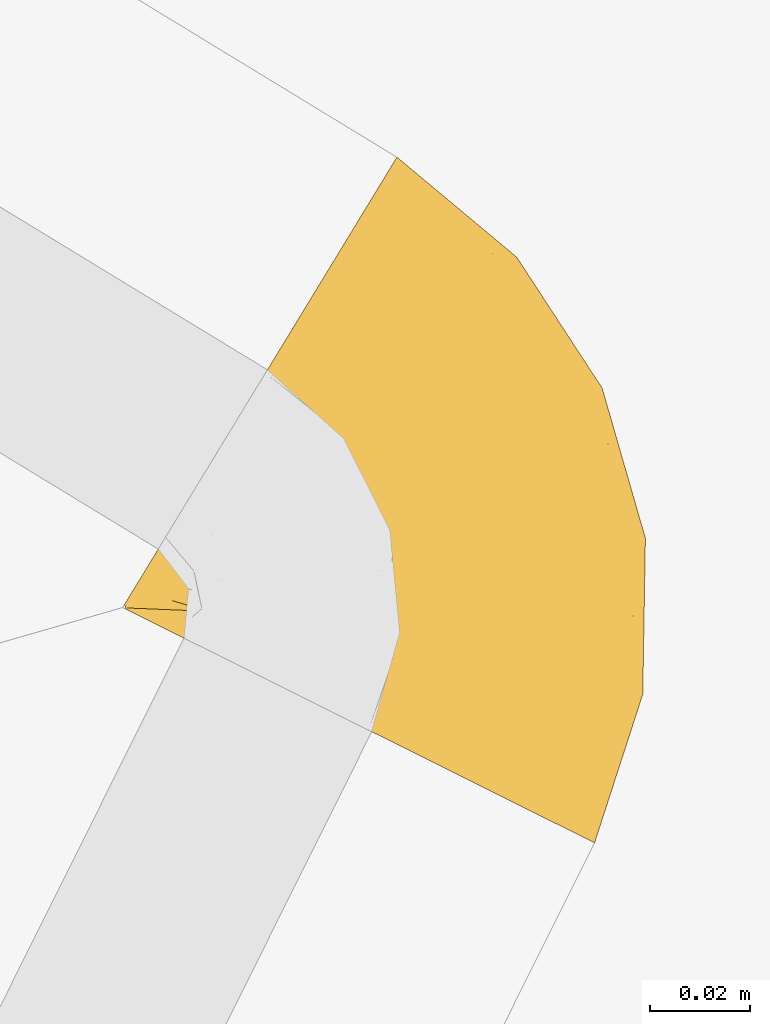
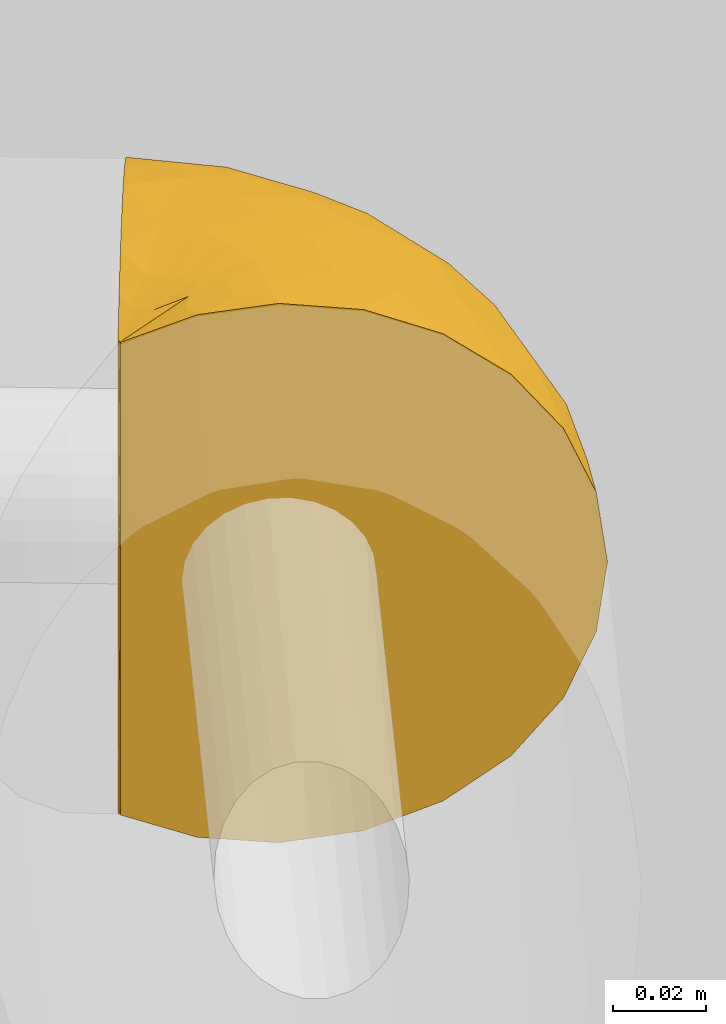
# One storey, part 18 of 47: 1 covering.
"""IFC2X3 building model written with IfcOpenShell, lengths in metres."""

from ifc_helpers import new_model, entity, si_unit, converted_unit, derived_unit, direction, frame, origin, place, context, subcontext, project, spatial, faceted_brep, element, save


model = new_model("IFC2X3")

# Units and contexts
model_context = context("Model", 3, precision=1e-05, world=origin(), true_north=direction((0.894925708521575, 0.446215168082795)))
context_of_model = context(None, 3, precision=1e-05, world=origin(), true_north=direction((0.894925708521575, 0.446215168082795)))
body_context = subcontext(model_context, "Body", "Model", "MODEL_VIEW")
ifc_project = project(units=[si_unit("LENGTHUNIT", "METRE"), si_unit("AREAUNIT", "SQUARE_METRE"), si_unit("VOLUMEUNIT", "CUBIC_METRE"), converted_unit("PLANEANGLEUNIT", "DEGREE", entity("IfcRatioMeasure", 0.0174532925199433), si_unit("PLANEANGLEUNIT", "RADIAN"), dimensions=[0, 0, 0, 0, 0, 0, 0]), si_unit("MASSUNIT", "GRAM", prefix="KILO"), si_unit("TIMEUNIT", "SECOND"), si_unit("FREQUENCYUNIT", "HERTZ"), si_unit("THERMODYNAMICTEMPERATUREUNIT", "DEGREE_CELSIUS"), derived_unit("THERMALTRANSMITTANCEUNIT", [(si_unit("MASSUNIT", "GRAM", prefix="KILO"), 1), (si_unit("THERMODYNAMICTEMPERATUREUNIT", "KELVIN"), -1), (si_unit("TIMEUNIT", "SECOND"), -3)]), derived_unit("VOLUMETRICFLOWRATEUNIT", [(si_unit("LENGTHUNIT", "METRE"), 3), (si_unit("TIMEUNIT", "SECOND"), -1)]), si_unit("ELECTRICCURRENTUNIT", "AMPERE"), si_unit("ELECTRICVOLTAGEUNIT", "VOLT"), si_unit("POWERUNIT", "WATT"), si_unit("FORCEUNIT", "NEWTON", prefix="KILO"), si_unit("ILLUMINANCEUNIT", "LUX"), si_unit("LUMINOUSFLUXUNIT", "LUMEN"), si_unit("LUMINOUSINTENSITYUNIT", "CANDELA"), si_unit("PRESSUREUNIT", "PASCAL")], contexts=[model_context, context_of_model])

# Site, building, storey
site_placement = place(None, frame((218.228324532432, 584.720189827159, 0.0), z_axis=(0.0, 0.0, 1.0), x_axis=(0.446215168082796, 0.894925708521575, 0.0)))
site = spatial("IfcSite", under=ifc_project, at=site_placement, Name="Default", CompositionType="ELEMENT")
building_placement = place(site_placement, origin())
building = spatial("IfcBuilding", under=site, at=building_placement, CompositionType="ELEMENT")
storey_placement = place(building_placement, frame((0.0, 0.0, 4.69)))
storey = spatial("IfcBuildingStorey", under=building, at=storey_placement, Name="1 - Piano Primo", CompositionType="ELEMENT", Elevation=4.69)

# Covering
covering_placement = place(storey_placement, frame((65.8307459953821, -4.22377426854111, 2.88730472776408)))
element("IfcCovering", 1, at=covering_placement, inside=storey, Name="Isolamento tubazione:Default", ObjectType="Isolamento tubazione:Default", PredefinedType="INSULATION", context=body_context, shape_type="Brep", body=[
    faceted_brep([(0.0130403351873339, 0.106551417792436, 0.13985527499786), (0.0245082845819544, 0.105579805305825, 0.142804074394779), (0.0362967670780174, 0.104581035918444, 0.143795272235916), (0.0501222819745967, 0.103409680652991, 0.142428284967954), (0.0634150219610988, 0.102283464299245, 0.138380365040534), (0.0756643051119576, 0.10124565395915, 0.131807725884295), (0.0863996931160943, 0.100336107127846, 0.122963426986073), (0.0952089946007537, 0.0995897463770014, 0.112187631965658), (0.101754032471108, 0.0990352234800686, 0.0998945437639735), (0.105783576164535, 0.0986938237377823, 0.0865565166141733), (0.107142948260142, 0.0985786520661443, 0.0726952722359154), (0.105780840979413, 0.0986940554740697, 0.0588202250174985), (0.101747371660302, 0.0990357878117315, 0.0454798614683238), (0.095198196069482, 0.0995906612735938, 0.033186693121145), (0.086385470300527, 0.10033731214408, 0.0224128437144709), (0.0756481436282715, 0.101247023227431, 0.0135719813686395), (0.063398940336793, 0.102284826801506, 0.00700349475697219), (0.050108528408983, 0.103410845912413, 0.00295951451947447), (0.0362967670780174, 0.104581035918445, 0.00159527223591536), (0.0244917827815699, 0.105581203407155, 0.00258926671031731), (0.0130245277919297, 0.106552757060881, 0.00554078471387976), (0.00221465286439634, 0.107468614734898, 0.0103632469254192), (0.00221465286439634, 0.107468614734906, 0.0138043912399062), (0.00221465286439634, 0.107468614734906, 0.0190639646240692), (0.00221465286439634, 0.107468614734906, 0.0234143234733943), (0.00221465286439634, 0.107468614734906, 0.0277646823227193), (0.00221465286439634, 0.107468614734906, 0.0321150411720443), (0.00221465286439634, 0.107468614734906, 0.0364654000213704), (0.00221465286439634, 0.107468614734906, 0.0408157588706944), (0.00221465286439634, 0.107468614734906, 0.0451661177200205), (0.00221465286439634, 0.107468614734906, 0.0495164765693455), (0.00221465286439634, 0.107468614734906, 0.0538668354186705), (0.00221465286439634, 0.107468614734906, 0.0582171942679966), (0.00221465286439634, 0.107468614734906, 0.0625675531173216), (0.00221465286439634, 0.107468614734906, 0.0669179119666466), (0.00221465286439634, 0.107468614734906, 0.0712682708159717), (0.00221465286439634, 0.107468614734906, 0.0756186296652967), (0.00221465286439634, 0.107468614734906, 0.0799689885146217), (0.00221465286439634, 0.107468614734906, 0.0834101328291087), (0.00221465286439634, 0.107468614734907, 0.0868512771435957), (0.00221465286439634, 0.107468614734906, 0.0902924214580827), (0.00221465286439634, 0.107468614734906, 0.0937335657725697), (0.00221465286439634, 0.107468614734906, 0.0971747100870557), (0.00221465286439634, 0.107468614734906, 0.100615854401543), (0.00221465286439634, 0.107468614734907, 0.10405699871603), (0.00221465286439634, 0.107468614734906, 0.107498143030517), (0.00221465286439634, 0.107468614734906, 0.110939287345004), (0.00221465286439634, 0.107468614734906, 0.114380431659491), (0.00221465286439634, 0.107468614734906, 0.117821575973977), (0.00221465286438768, 0.107468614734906, 0.121262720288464), (0.002214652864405, 0.107468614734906, 0.124703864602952), (0.00221465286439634, 0.107468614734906, 0.128145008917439), (0.00221465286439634, 0.107468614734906, 0.131586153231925), (0.00221465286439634, 0.107468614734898, 0.135027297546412), (0.00159527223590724, 0.072695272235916, 0.00159527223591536), (0.00159527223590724, 0.0542932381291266, 0.00401794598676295), (0.00159527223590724, 0.0371452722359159, 0.0111208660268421), (0.00159527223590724, 0.0224199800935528, 0.0224199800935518), (0.00159527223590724, 0.0111208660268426, 0.0371452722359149), (0.00159527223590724, 0.00401794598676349, 0.0542932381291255), (0.00159527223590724, 0.00159527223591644, 0.0726952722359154), (0.00159527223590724, 0.00401794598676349, 0.0910973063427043), (0.00159527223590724, 0.0111208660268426, 0.108245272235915), (0.00159527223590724, 0.0224199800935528, 0.122970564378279), (0.00159527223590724, 0.0371452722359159, 0.134269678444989), (0.00159527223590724, 0.0542932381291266, 0.141372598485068), (0.00159527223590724, 0.072695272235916, 0.143795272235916), (0.00159527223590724, 0.0903503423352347, 0.141568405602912), (0.00159527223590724, 0.106899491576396, 0.135027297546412), (0.00159527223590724, 0.106899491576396, 0.131586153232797), (0.00159527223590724, 0.106899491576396, 0.1272357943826), (0.00159527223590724, 0.106899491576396, 0.123340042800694), (0.00159527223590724, 0.106899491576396, 0.119444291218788), (0.00159527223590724, 0.106899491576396, 0.115548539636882), (0.00159527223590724, 0.106899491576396, 0.111652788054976), (0.0015952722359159, 0.106899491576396, 0.107757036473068), (0.0015952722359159, 0.106899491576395, 0.103861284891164), (0.00159527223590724, 0.106899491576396, 0.0999655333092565), (0.0015952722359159, 0.106899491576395, 0.0960697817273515), (0.00159527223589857, 0.106899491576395, 0.0921740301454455), (0.00159527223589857, 0.106899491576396, 0.0882782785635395), (0.0015952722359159, 0.106899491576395, 0.0843825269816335), (0.00159527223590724, 0.106899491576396, 0.0804867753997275), (0.00159527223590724, 0.106899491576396, 0.0765910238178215), (0.00159527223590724, 0.106899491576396, 0.0726952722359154), (0.00159527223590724, 0.106899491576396, 0.0683449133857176), (0.0015952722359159, 0.106899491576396, 0.0639945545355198), (0.00159527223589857, 0.106899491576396, 0.059644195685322), (0.00159527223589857, 0.106899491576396, 0.0552938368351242), (0.00159527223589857, 0.106899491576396, 0.0509434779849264), (0.00159527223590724, 0.106899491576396, 0.0465931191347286), (0.00159527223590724, 0.106899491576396, 0.0422427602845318), (0.00159527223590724, 0.106899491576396, 0.0378924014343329), (0.00159527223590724, 0.106899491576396, 0.0344512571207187), (0.00159527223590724, 0.106899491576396, 0.0310101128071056), (0.00159527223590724, 0.106899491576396, 0.0275689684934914), (0.0015952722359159, 0.106899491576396, 0.0241278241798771), (0.00159527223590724, 0.106899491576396, 0.0206866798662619), (0.00159527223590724, 0.106899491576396, 0.0172455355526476), (0.00159527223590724, 0.106899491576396, 0.0138043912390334), (0.00159527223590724, 0.106899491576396, 0.0103632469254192), (0.00159527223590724, 0.0987971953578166, 0.00716078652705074), (0.00159527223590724, 0.0903503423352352, 0.00382213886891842), (0.00202228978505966, 0.107069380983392, 0.109218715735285), (0.00199271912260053, 0.107043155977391, 0.0361718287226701), (0.00199480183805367, 0.107044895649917, 0.0398022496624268), (0.0020259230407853, 0.107072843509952, 0.0593838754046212), (0.00200429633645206, 0.107053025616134, 0.0627726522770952), (0.0020018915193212, 0.107050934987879, 0.0785389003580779), (0.00201584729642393, 0.10706337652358, 0.0155249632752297), (0.00198954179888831, 0.107040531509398, 0.0190510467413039), (0.00201584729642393, 0.10706337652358, 0.129865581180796), (0.00201584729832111, 0.107063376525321, 0.135027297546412), (0.00201584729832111, 0.107063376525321, 0.0103632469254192), (0.00202859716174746, 0.107075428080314, 0.105454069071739), (0.00203584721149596, 0.107082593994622, 0.0255895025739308), (0.00198636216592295, 0.107037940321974, 0.0941219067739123), (0.00204031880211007, 0.107087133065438, 0.0886828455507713), (0.00205313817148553, 0.10710068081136, 0.0818180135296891), (0.00198195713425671, 0.107034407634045, 0.0661697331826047), (0.00199297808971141, 0.107043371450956, 0.074643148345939), (0.0019975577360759, 0.107047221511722, 0.0711818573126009), (0.00203437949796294, 0.10708112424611, 0.0851307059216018), (0.00202968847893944, 0.107076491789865, 0.0433993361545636), (0.00203884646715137, 0.107085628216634, 0.0469286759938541), (0.00199014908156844, 0.107041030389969, 0.11360066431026), (0.00204757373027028, 0.107094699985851, 0.0516916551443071), (0.00198751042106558, 0.107038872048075, 0.0327075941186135), (0.00205454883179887, 0.107102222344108, 0.10217519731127), (0.0020411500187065, 0.107087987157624, 0.119445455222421), (0.002037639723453, 0.107084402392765, 0.122983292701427), (0.00204546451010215, 0.107092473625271, 0.126430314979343), (0.00212321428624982, 0.107282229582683, 0.0103632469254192), (0.00206953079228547, 0.107172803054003, 0.0103632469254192), (0.00206953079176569, 0.10717280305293, 0.135027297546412), (0.00212321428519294, 0.107282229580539, 0.135027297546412), (0.00178871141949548, 0.106974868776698, 0.135027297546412), (0.00190227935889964, 0.10701912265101, 0.135027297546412), (0.00190227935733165, 0.107019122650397, 0.0103632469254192), (0.00178871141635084, 0.106974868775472, 0.0103632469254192), (0.0019690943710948, 0.107024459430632, 0.0223480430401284), (0.00202992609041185, 0.107076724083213, 0.0988952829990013), (0.00200871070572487, 0.107056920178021, 0.0292486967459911), (0.0020271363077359, 0.107074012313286, 0.0550887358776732), (0.00768087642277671, 0.101893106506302, 0.00673307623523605), (0.0075523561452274, 0.0995667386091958, 0.0060935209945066), (0.0130176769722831, 0.0755840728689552, 0.00159527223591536), (0.00857504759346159, 0.0918329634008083, 0.00382213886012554), (0.0181516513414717, 0.076882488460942, 0.00159527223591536), (0.00425471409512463, 0.0950011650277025, 0.00509319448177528), (0.00503713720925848, 0.10025039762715, 0.00683211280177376), (0.0173100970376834, 0.100621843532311, 0.00382422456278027), (0.010030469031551, 0.102174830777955, 0.00607522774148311), (0.00631239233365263, 0.0829874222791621, 0.00227986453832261), (0.0307267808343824, 0.0884372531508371, 0.00159527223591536), (0.0257529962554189, 0.095669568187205, 0.00203748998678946), (0.0335117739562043, 0.096509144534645, 0.00159527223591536), (0.0244643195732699, 0.101064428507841, 0.00246120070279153), (0.033727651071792, 0.0971348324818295, 0.00159527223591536), (0.0182497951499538, 0.096111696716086, 0.00311841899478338), (0.024439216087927, 0.0826598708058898, 0.00159527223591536), (0.0119335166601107, 0.0922899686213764, 0.00351669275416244), (0.0147447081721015, 0.0941121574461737, 0.00342942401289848), (0.00923178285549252, 0.0746265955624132, 0.00159527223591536), (0.0676231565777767, 0.089922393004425, 0.00998578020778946), (0.0543810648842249, 0.0905222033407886, 0.00465388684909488), (0.0152016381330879, 0.0599251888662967, 0.00312657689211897), (0.0318631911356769, 0.0650591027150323, 0.00373706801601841), (0.012141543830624, 0.0463895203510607, 0.00700743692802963), (0.0249536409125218, 0.0500521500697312, 0.00700743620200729), (0.0744756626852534, 0.0348956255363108, 0.052135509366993), (0.0667455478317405, 0.0406976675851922, 0.0322870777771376), (0.0850973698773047, 0.0571342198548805, 0.0391718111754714), (0.0326205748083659, 0.00624073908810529, 0.0726952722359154), (0.0458013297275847, 0.0150371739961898, 0.0509094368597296), (0.0609245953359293, 0.0197696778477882, 0.0726952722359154), (0.0888890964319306, 0.0522560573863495, 0.0536126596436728), (0.0998948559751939, 0.068056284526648, 0.0726952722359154), (0.0840247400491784, 0.0409954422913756, 0.0726952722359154), (0.0983871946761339, 0.0727066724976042, 0.0520505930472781), (0.0573388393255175, 0.0502464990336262, 0.017727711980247), (0.0519984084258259, 0.0644912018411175, 0.00892761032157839), (0.0733750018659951, 0.0608241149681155, 0.022957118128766), (0.0462107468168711, 0.0792345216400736, 0.0039117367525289), (0.0226598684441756, 0.00923946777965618, 0.0454864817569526), (0.0378664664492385, 0.0238078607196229, 0.029412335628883), (0.0218685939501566, 0.00476755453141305, 0.0597338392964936), (0.0627653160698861, 0.0770642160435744, 0.00998577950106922), (0.0216456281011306, 0.03202962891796, 0.016287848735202), (0.0757097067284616, 0.0795205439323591, 0.0171641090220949), (0.0182407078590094, 0.0178191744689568, 0.0294123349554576), (0.036675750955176, 0.0743971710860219, 0.00287360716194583), (0.0523625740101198, 0.0328711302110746, 0.0281938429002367), (0.0580943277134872, 0.0266840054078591, 0.0413113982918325), (0.0860775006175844, 0.0771345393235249, 0.0275825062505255), (0.0431706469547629, 0.0374832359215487, 0.0190150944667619), (0.0933241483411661, 0.0743956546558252, 0.0391722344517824), (0.0413678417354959, 0.0517996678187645, 0.010053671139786), (0.0983899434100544, 0.0727007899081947, 0.0933248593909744), (0.0218685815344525, 0.00476755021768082, 0.0856566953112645), (0.0462128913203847, 0.0792208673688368, 0.141476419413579), (0.0627742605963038, 0.0770456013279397, 0.13539605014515), (0.0543939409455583, 0.0905129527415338, 0.140732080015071), (0.0216456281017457, 0.0320296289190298, 0.129102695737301), (0.0458011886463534, 0.0150374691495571, 0.0944821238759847), (0.0226595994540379, 0.00923941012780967, 0.0999040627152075), (0.0850982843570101, 0.057118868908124, 0.106202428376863), (0.0744880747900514, 0.0349021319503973, 0.0932411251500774), (0.0898339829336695, 0.0516856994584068, 0.0872478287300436), (0.0667301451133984, 0.040656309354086, 0.113076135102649), (0.0121415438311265, 0.0463895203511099, 0.138383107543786), (0.0152016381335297, 0.0599251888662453, 0.142263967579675), (0.057327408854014, 0.050213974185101, 0.127650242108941), (0.073378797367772, 0.0607953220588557, 0.122414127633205), (0.0519958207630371, 0.0644683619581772, 0.13645658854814), (0.0431511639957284, 0.0374663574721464, 0.126371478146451), (0.0378443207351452, 0.0237982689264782, 0.11597820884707), (0.0676372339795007, 0.0899119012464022, 0.13539604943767), (0.0249536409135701, 0.0500521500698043, 0.138383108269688), (0.0757194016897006, 0.0795049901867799, 0.128214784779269), (0.0955875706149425, 0.0814718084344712, 0.106202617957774), (0.0860878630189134, 0.0771261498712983, 0.11779269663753), (0.0181516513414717, 0.0768824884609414, 0.143795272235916), (0.0130176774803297, 0.0755840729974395, 0.143795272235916), (0.00923178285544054, 0.0746265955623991, 0.143795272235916), (0.0199558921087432, 0.0161529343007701, 0.113294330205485), (0.0337276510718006, 0.097134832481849, 0.143795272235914), (0.0335117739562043, 0.0965091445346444, 0.143795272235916), (0.0307267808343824, 0.0884372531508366, 0.143795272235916), (0.0318631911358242, 0.0650591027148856, 0.141653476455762), (0.0413485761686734, 0.0517750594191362, 0.13533212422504), (0.024439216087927, 0.0826598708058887, 0.143795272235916), (0.0366714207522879, 0.0743963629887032, 0.142517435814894), (0.0523448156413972, 0.0328555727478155, 0.11719311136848), (0.0580392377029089, 0.0266545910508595, 0.104094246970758), (0.00606720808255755, 0.0821670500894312, 0.143213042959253), (0.0123092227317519, 0.0834398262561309, 0.143289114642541), (0.0136882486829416, 0.0894601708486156, 0.142579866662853), (0.00725655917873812, 0.0993914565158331, 0.139285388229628), (0.00857504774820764, 0.0918329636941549, 0.141568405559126), (0.0173226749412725, 0.10061002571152, 0.1415704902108), (0.0147442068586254, 0.0940998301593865, 0.141963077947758), (0.00828618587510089, 0.101084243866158, 0.13904924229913), (0.00926582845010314, 0.103061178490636, 0.138889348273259), (0.0158754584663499, 0.0976276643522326, 0.141619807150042), (0.00967779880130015, 0.104750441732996, 0.138759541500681), (0.00476163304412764, 0.0926147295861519, 0.141044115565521)], [[[0, 1, 2, 3, 4, 5, 6, 7, 8, 9, 10, 11, 12, 13, 14, 15, 16, 17, 18, 19, 20, 21, 22, 23, 24, 25, 26, 27, 28, 29, 30, 31, 32, 33, 34, 35, 36, 37, 38, 39, 40, 41, 42, 43, 44, 45, 46, 47, 48, 49, 50, 51, 52, 53]], [[54, 55, 56, 57, 58, 59, 60, 61, 62, 63, 64, 65, 66, 67, 68, 69, 70, 71, 72, 73, 74, 75, 76, 77, 78, 79, 80, 81, 82, 83, 84, 85, 86, 87, 88, 89, 90, 91, 92, 93, 94, 95, 96, 97, 98, 99, 100, 101, 102]], [[45, 103, 46]], [[27, 104, 105]], [[106, 87, 107]], [[83, 82, 108]], [[109, 110, 23]], [[37, 36, 108]], [[111, 112, 52, 51]], [[22, 113, 109, 23]], [[103, 114, 75]], [[25, 24, 115]], [[92, 105, 104]], [[116, 40, 117]], [[37, 118, 38]], [[33, 107, 119]], [[120, 121, 84]], [[69, 112, 111]], [[99, 109, 113]], [[120, 36, 35]], [[80, 117, 122]], [[119, 34, 33]], [[123, 124, 29]], [[73, 125, 74]], [[123, 91, 90]], [[126, 89, 88]], [[104, 27, 127]], [[27, 26, 127]], [[122, 81, 80]], [[128, 77, 76]], [[129, 130, 49]], [[130, 129, 72]], [[109, 98, 110]], [[98, 109, 99]], [[111, 70, 69]], [[50, 49, 130]], [[71, 70, 131]], [[22, 21, 132, 133, 113]], [[52, 112, 134, 135, 53]], [[69, 68, 136, 137, 112]], [[99, 113, 138, 139, 100]], [[130, 71, 131]], [[50, 131, 51]], [[111, 51, 131]], [[123, 105, 91]], [[71, 130, 72]], [[46, 125, 48, 47]], [[73, 72, 129]], [[129, 48, 125]], [[140, 24, 23]], [[129, 125, 73]], [[129, 49, 48]], [[83, 120, 84]], [[110, 97, 140]], [[120, 83, 108]], [[24, 140, 115]], [[110, 98, 97]], [[82, 118, 108]], [[38, 118, 122]], [[38, 122, 39]], [[117, 39, 122]], [[82, 81, 118]], [[40, 39, 117]], [[85, 119, 86]], [[78, 116, 79]], [[117, 80, 79]], [[41, 40, 116, 42]], [[36, 120, 108]], [[35, 121, 120]], [[121, 85, 84]], [[35, 34, 121]], [[119, 85, 121]], [[81, 122, 118]], [[108, 118, 37]], [[111, 131, 70]], [[130, 131, 50]], [[125, 103, 74]], [[75, 74, 103]], [[125, 46, 103]], [[76, 75, 114]], [[77, 128, 141]], [[78, 141, 116]], [[114, 103, 45]], [[114, 44, 128]], [[43, 141, 128]], [[116, 141, 42]], [[42, 141, 43]], [[77, 141, 78]], [[79, 116, 117]], [[95, 142, 115]], [[43, 128, 44]], [[114, 45, 44]], [[114, 128, 76]], [[25, 115, 142]], [[140, 97, 96]], [[93, 92, 104]], [[115, 96, 95]], [[26, 25, 142]], [[93, 127, 94]], [[142, 94, 127]], [[28, 27, 105]], [[29, 28, 123]], [[105, 92, 91]], [[23, 110, 140]], [[115, 140, 96]], [[142, 127, 26]], [[104, 127, 93]], [[95, 94, 142]], [[105, 123, 28]], [[30, 126, 31]], [[90, 124, 123]], [[124, 30, 29]], [[90, 89, 124]], [[126, 30, 124]], [[107, 86, 119]], [[34, 119, 121]], [[106, 143, 88]], [[107, 33, 106]], [[87, 86, 107]], [[126, 88, 143]], [[143, 31, 126]], [[89, 126, 124]], [[143, 32, 31]], [[106, 32, 143]], [[88, 87, 106]], [[32, 106, 33]], [[144, 145, 113]], [[146, 147, 148]], [[139, 149, 100]], [[150, 149, 139]], [[145, 138, 113]], [[20, 151, 132]], [[133, 152, 144]], [[54, 102, 153]], [[132, 21, 20]], [[154, 155, 156]], [[157, 18, 158, 156]], [[155, 157, 156]], [[159, 154, 160]], [[151, 159, 152]], [[147, 150, 161]], [[19, 157, 20]], [[149, 153, 102]], [[155, 159, 151]], [[160, 148, 161]], [[157, 155, 151]], [[154, 159, 155]], [[152, 132, 151]], [[145, 144, 162]], [[144, 159, 162]], [[132, 152, 133]], [[20, 157, 151]], [[157, 19, 18]], [[149, 102, 101, 100]], [[153, 147, 146]], [[147, 153, 149]], [[153, 146, 163, 54]], [[159, 160, 162]], [[150, 139, 138]], [[161, 145, 162]], [[145, 161, 150]], [[145, 150, 138]], [[149, 150, 147]], [[133, 144, 113]], [[144, 152, 159]], [[160, 161, 162]], [[148, 147, 161]], [[164, 165, 16]], [[166, 148, 167]], [[168, 56, 55]], [[169, 168, 166]], [[170, 171, 172]], [[173, 174, 175]], [[176, 177, 178]], [[12, 11, 179]], [[180, 181, 182]], [[183, 154, 156, 158]], [[174, 184, 185]], [[59, 186, 60]], [[165, 187, 183]], [[184, 59, 58]], [[56, 168, 188]], [[189, 187, 164]], [[58, 57, 190]], [[167, 169, 166]], [[183, 191, 154]], [[192, 193, 185]], [[194, 14, 13]], [[189, 14, 194]], [[183, 158, 165]], [[165, 17, 16]], [[188, 169, 195]], [[170, 175, 174]], [[184, 186, 59]], [[158, 17, 165]], [[187, 189, 182]], [[12, 179, 196]], [[196, 13, 12]], [[170, 172, 176]], [[56, 188, 57]], [[171, 180, 182]], [[11, 10, 177]], [[172, 194, 196]], [[11, 177, 179]], [[158, 18, 17]], [[190, 188, 185]], [[15, 164, 16]], [[55, 54, 163]], [[169, 197, 195]], [[15, 14, 189]], [[165, 164, 187]], [[189, 164, 15]], [[189, 194, 182]], [[194, 172, 182]], [[171, 182, 172]], [[176, 172, 179]], [[195, 192, 185]], [[175, 170, 178]], [[193, 174, 185]], [[181, 187, 182]], [[160, 191, 167]], [[181, 197, 167]], [[160, 167, 148]], [[181, 183, 187]], [[197, 181, 180]], [[191, 181, 167]], [[197, 180, 195]], [[169, 167, 197]], [[192, 180, 171]], [[188, 195, 185]], [[184, 58, 190]], [[186, 174, 173]], [[188, 190, 57]], [[184, 190, 185]], [[174, 186, 184]], [[60, 186, 173]], [[166, 55, 163]], [[188, 168, 169]], [[55, 166, 168]], [[166, 163, 146, 148]], [[180, 192, 195]], [[192, 171, 193]], [[171, 170, 193]], [[170, 174, 193]], [[196, 194, 13]], [[179, 172, 196]], [[177, 176, 179]], [[178, 170, 176]], [[154, 191, 160]], [[181, 191, 183]], [[177, 9, 198]], [[60, 173, 199]], [[200, 201, 202]], [[64, 63, 203]], [[173, 175, 204]], [[199, 204, 205]], [[206, 207, 208]], [[207, 206, 209]], [[65, 210, 211]], [[175, 178, 207]], [[212, 213, 214]], [[65, 64, 210]], [[215, 203, 216]], [[202, 217, 4]], [[218, 210, 203]], [[208, 177, 198]], [[62, 61, 205]], [[219, 5, 217]], [[220, 7, 221]], [[211, 222, 223, 224]], [[198, 220, 206]], [[221, 7, 6]], [[4, 3, 202]], [[7, 220, 8]], [[10, 9, 177]], [[62, 205, 225]], [[200, 226, 227, 228]], [[201, 213, 219]], [[4, 217, 5]], [[5, 219, 6]], [[222, 211, 229]], [[221, 219, 213]], [[226, 200, 202]], [[213, 209, 206]], [[207, 178, 208]], [[3, 226, 202]], [[3, 2, 226]], [[201, 217, 202]], [[225, 203, 63]], [[198, 9, 8]], [[230, 215, 212]], [[225, 205, 216]], [[224, 66, 65]], [[219, 217, 201]], [[231, 222, 229]], [[201, 200, 214]], [[228, 231, 232]], [[214, 230, 212]], [[232, 231, 229]], [[201, 214, 213]], [[6, 219, 221]], [[209, 213, 212]], [[206, 221, 213]], [[233, 212, 215]], [[216, 234, 233]], [[233, 234, 209]], [[175, 207, 204]], [[232, 214, 200]], [[230, 214, 229]], [[229, 218, 230]], [[215, 218, 203]], [[215, 230, 218]], [[233, 215, 216]], [[199, 205, 61]], [[216, 205, 204]], [[203, 225, 216]], [[63, 62, 225]], [[60, 199, 61]], [[204, 199, 173]], [[203, 210, 64]], [[211, 210, 218]], [[211, 218, 229]], [[65, 211, 224]], [[234, 216, 204]], [[212, 233, 209]], [[204, 207, 234]], [[207, 209, 234]], [[206, 220, 221]], [[8, 220, 198]], [[214, 232, 229]], [[228, 232, 200]], [[177, 208, 178]], [[206, 208, 198]], [[235, 66, 224, 223]], [[236, 235, 223]], [[222, 236, 223]], [[231, 237, 222]], [[238, 136, 239]], [[240, 1, 0]], [[1, 227, 226, 2]], [[239, 237, 238]], [[240, 227, 1]], [[231, 241, 237]], [[134, 242, 243]], [[239, 236, 237]], [[244, 228, 240]], [[135, 243, 245]], [[68, 67, 246]], [[242, 112, 238]], [[246, 67, 235]], [[53, 135, 245]], [[239, 246, 235]], [[239, 235, 236]], [[66, 235, 67]], [[241, 231, 228]], [[237, 236, 222]], [[241, 242, 238]], [[241, 238, 237]], [[238, 112, 137, 136]], [[239, 136, 246]], [[68, 246, 136]], [[243, 244, 240]], [[243, 240, 245]], [[243, 135, 134]], [[134, 112, 242]], [[244, 242, 241]], [[240, 0, 245]], [[53, 245, 0]], [[242, 244, 243]], [[228, 244, 241]], [[240, 228, 227]]]),
])

save(model, "model.ifc")
